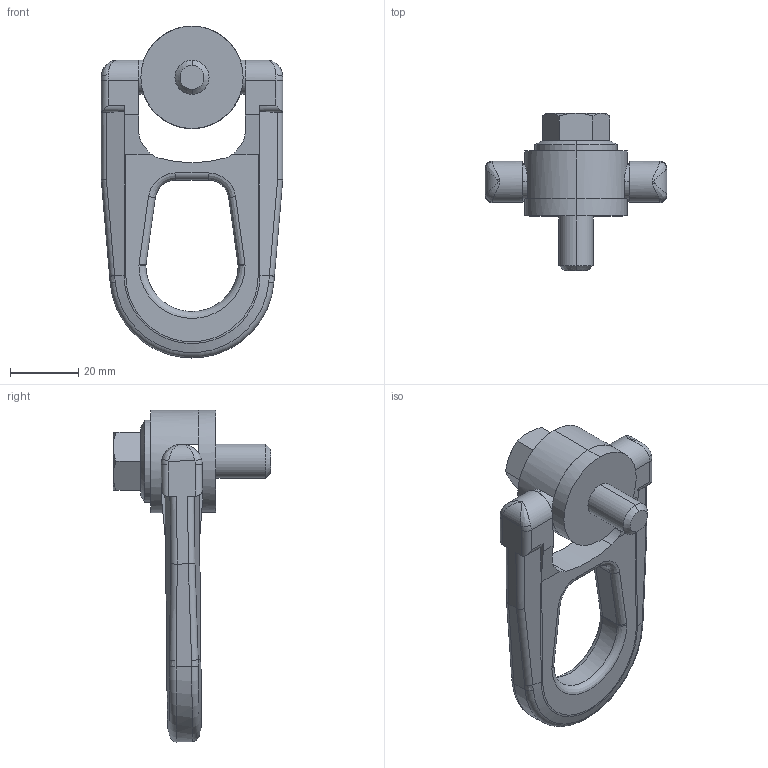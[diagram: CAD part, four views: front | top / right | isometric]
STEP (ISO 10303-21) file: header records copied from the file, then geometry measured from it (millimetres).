
FILE_DESCRIPTION (( 'STEP AP203' ), '1' );
FILE_NAME ('63200.W0011.step', '2013-12-13T15:21:36', ( 'User' ), ( '' ), 'SwSTEP 2.0', 'SolidWorks 2009', '' );
FILE_SCHEMA (( 'CONFIG_CONTROL_DESIGN' ));
Length unit declared in the file: millimetre
Products named in the file (3): 63200.W0011; Part2; Part1_63200.W0011
Assembly tree (2 placements, depth 2):
  63200.W0011
    Part1_63200.W0011
    Part2
Bounding box: 53 x 46 x 97.02 mm (x, y, z)
Volume: 39456.7 mm3; surface area: 13881 mm2
Topology: 2 solids, 2 shells, 143 faces, 355 edges, 217 vertices
Faces by surface type: plane 49, cylinder 46, bspline 28, cone 13, torus 7
Entity records: 6714 total; most frequent: CARTESIAN_POINT 3275, ORIENTED_EDGE 710, DIRECTION 601, EDGE_CURVE 355, AXIS2_PLACEMENT_3D 229, VERTEX_POINT 217, EDGE_LOOP 148, LINE 143
